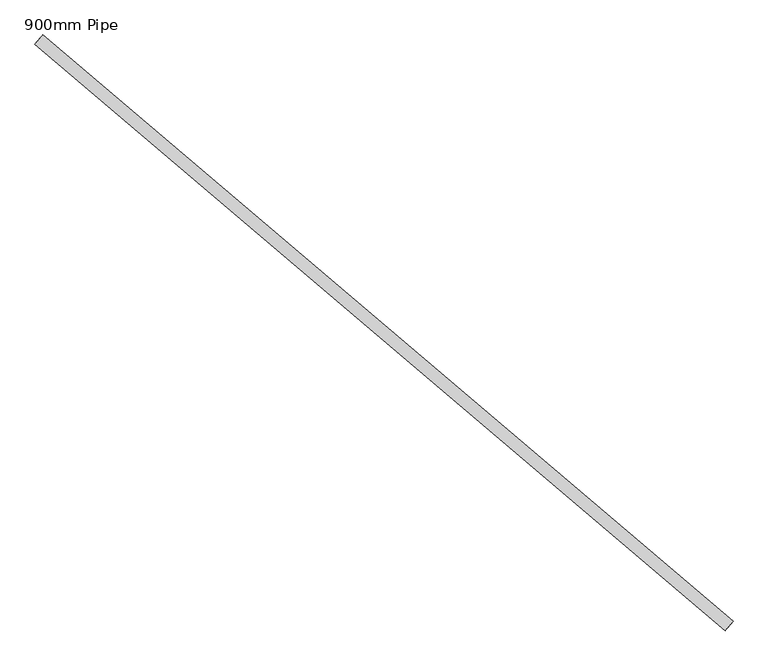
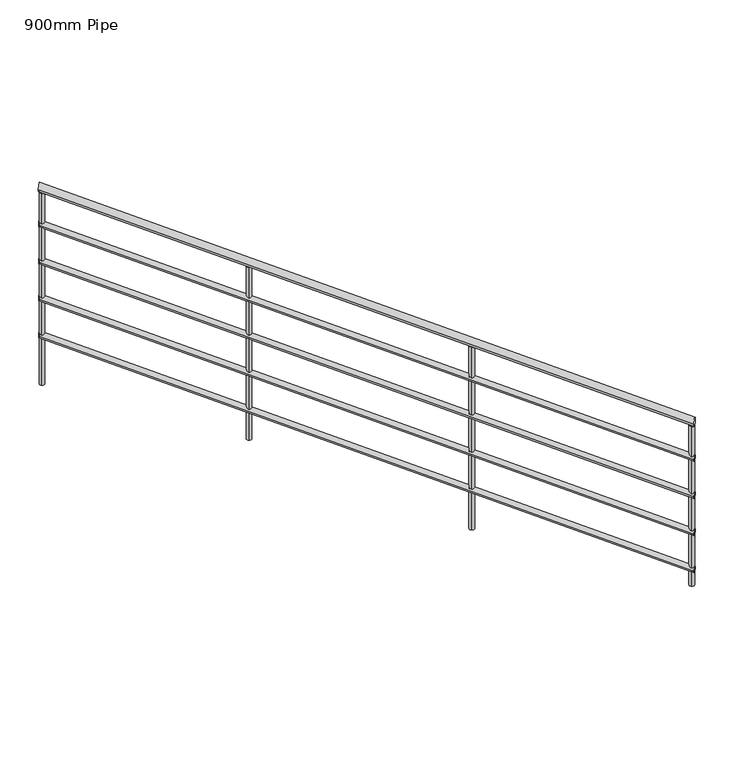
"""IFC4 building model written with IfcOpenShell, lengths in millimetres: railing geometry, 900mm Pipe."""

from ifc_helpers import new_model, si_unit, frame, origin, place, context, project, spatial, circle_curve, ellipse_curve, source, transform, mapped, element, save
from ifc_brep_helpers import plane_surface, cylinder_surface, advanced_brep


def railing_900mm_pipe_257e322f(model_context):
    return source(origin(), model_context, "Body", "AdvancedBrep", [
        advanced_brep(
        [(856945.9510789, 39344.0202675, 4058.386247), (856971.8453201, 39374.5077776, 4058.386247), (854703.5536577, 41248.5765727, 4954.8568352), (854729.4478988, 41279.0640829, 4954.8568352)],
        [
            (0, 1, ellipse_curve(frame((856958.8981995, 39359.2640225, 4058.386247), z_axis=(0.76218775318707, -0.6473560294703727, 0.0), x_axis=(0.0, 0.0, -1.0)), 20.9078706, 20.0)),
            (1, 0, ellipse_curve(frame((856958.8981995, 39359.2640225, 4058.386247), z_axis=(0.76218775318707, -0.6473560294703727, 0.0), x_axis=(0.0, 0.0, -1.0)), 20.9078706, 20.0)),
            (2, 3, ellipse_curve(frame((854716.5007782, 41263.8203278, 4954.8568352), z_axis=(-0.76218775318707, 0.6473560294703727, 0.0), x_axis=(0.0, 0.0, -1.0)), 20.9078706, 20.0)),
            (3, 2, ellipse_curve(frame((854716.5007782, 41263.8203278, 4954.8568352), z_axis=(-0.76218775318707, 0.6473560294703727, 0.0), x_axis=(0.0, 0.0, -1.0)), 20.9078706, 20.0)),
            (0, 2),
            (3, 1),
        ],
        [
            plane_surface(frame((856958.8981995, 39359.2640225, 4079.2941176), z_axis=(0.76218775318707, -0.6473560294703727, 0.0), x_axis=(0.6473560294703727, 0.76218775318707, 0.0))),
            plane_surface(frame((854716.5007782, 41263.8203278, 4975.7647059), z_axis=(-0.76218775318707, 0.6473560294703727, 0.0), x_axis=(0.6473560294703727, 0.76218775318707, 0.0))),
            cylinder_surface(frame((856954.4549819, 39363.0378219, 4060.1625663), z_axis=(0.7290917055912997, -0.6192462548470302, -0.29147789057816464), x_axis=(0.6473560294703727, 0.76218775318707, 0.0)), 20.0),
        ],
        [
            (0, [[1, 2]]),
            (1, [[3, 4]]),
            (2, [[-1, 5, -4, 6]]),
            (2, [[-2, -6, -3, -5]]),
        ],
    ),
        advanced_brep(
        [(856949.1878591, 39347.8312062, 3863.6132147), (856968.6085399, 39370.6968388, 3863.6132147), (854706.7904378, 41252.3875115, 4760.0838029), (854726.2111187, 41275.2531441, 4760.0838029)],
        [
            (0, 1, ellipse_curve(frame((856958.8981995, 39359.2640225, 3863.6132147), z_axis=(0.76218775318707, -0.6473560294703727, 0.0), x_axis=(0.0, 0.0, -1.0)), 15.680903, 15.0)),
            (1, 0, ellipse_curve(frame((856958.8981995, 39359.2640225, 3863.6132147), z_axis=(0.76218775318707, -0.6473560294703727, 0.0), x_axis=(0.0, 0.0, -1.0)), 15.680903, 15.0)),
            (2, 3, ellipse_curve(frame((854716.5007782, 41263.8203278, 4760.0838029), z_axis=(-0.76218775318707, 0.6473560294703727, 0.0), x_axis=(0.0, 0.0, -1.0)), 15.680903, 15.0)),
            (3, 2, ellipse_curve(frame((854716.5007782, 41263.8203278, 4760.0838029), z_axis=(-0.76218775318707, 0.6473560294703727, 0.0), x_axis=(0.0, 0.0, -1.0)), 15.680903, 15.0)),
            (0, 2),
            (3, 1),
        ],
        [
            plane_surface(frame((856958.8981995, 39359.2640225, 3879.2941176), z_axis=(0.76218775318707, -0.6473560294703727, 0.0), x_axis=(0.6473560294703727, 0.76218775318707, 0.0))),
            plane_surface(frame((854716.5007782, 41263.8203278, 4775.7647059), z_axis=(-0.76218775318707, 0.6473560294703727, 0.0), x_axis=(0.6473560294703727, 0.76218775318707, 0.0))),
            cylinder_surface(frame((856955.5657863, 39362.0943721, 3864.9454542), z_axis=(0.7290917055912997, -0.6192462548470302, -0.29147789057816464), x_axis=(0.6473560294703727, 0.76218775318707, 0.0)), 15.0),
        ],
        [
            (0, [[1, 2]]),
            (1, [[3, 4]]),
            (2, [[-1, 5, -4, 6]]),
            (2, [[-2, -6, -3, -5]]),
        ],
    ),
        advanced_brep(
        [(856949.1878591, 39347.8312062, 3663.6132147), (856968.6085399, 39370.6968388, 3663.6132147), (854706.7904378, 41252.3875115, 4560.0838029), (854726.2111187, 41275.2531441, 4560.0838029)],
        [
            (0, 1, ellipse_curve(frame((856958.8981995, 39359.2640225, 3663.6132147), z_axis=(0.76218775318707, -0.6473560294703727, 0.0), x_axis=(0.0, 0.0, -1.0)), 15.680903, 15.0)),
            (1, 0, ellipse_curve(frame((856958.8981995, 39359.2640225, 3663.6132147), z_axis=(0.76218775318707, -0.6473560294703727, 0.0), x_axis=(0.0, 0.0, -1.0)), 15.680903, 15.0)),
            (2, 3, ellipse_curve(frame((854716.5007782, 41263.8203278, 4560.0838029), z_axis=(-0.76218775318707, 0.6473560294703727, 0.0), x_axis=(0.0, 0.0, -1.0)), 15.680903, 15.0)),
            (3, 2, ellipse_curve(frame((854716.5007782, 41263.8203278, 4560.0838029), z_axis=(-0.76218775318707, 0.6473560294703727, 0.0), x_axis=(0.0, 0.0, -1.0)), 15.680903, 15.0)),
            (0, 2),
            (3, 1),
        ],
        [
            plane_surface(frame((856958.8981995, 39359.2640225, 3679.2941176), z_axis=(0.76218775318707, -0.6473560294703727, 0.0), x_axis=(0.6473560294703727, 0.76218775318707, 0.0))),
            plane_surface(frame((854716.5007782, 41263.8203278, 4575.7647059), z_axis=(-0.76218775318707, 0.6473560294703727, 0.0), x_axis=(0.6473560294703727, 0.76218775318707, 0.0))),
            cylinder_surface(frame((856955.5657863, 39362.0943721, 3664.9454542), z_axis=(0.7290917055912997, -0.6192462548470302, -0.29147789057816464), x_axis=(0.6473560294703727, 0.76218775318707, 0.0)), 15.0),
        ],
        [
            (0, [[1, 2]]),
            (1, [[3, 4]]),
            (2, [[-1, 5, -4, 6]]),
            (2, [[-2, -6, -3, -5]]),
        ],
    ),
        advanced_brep(
        [(856949.1878591, 39347.8312062, 3463.6132147), (856968.6085399, 39370.6968388, 3463.6132147), (854706.7904378, 41252.3875115, 4360.0838029), (854726.2111187, 41275.2531441, 4360.0838029)],
        [
            (0, 1, ellipse_curve(frame((856958.8981995, 39359.2640225, 3463.6132147), z_axis=(0.76218775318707, -0.6473560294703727, 0.0), x_axis=(0.0, 0.0, -1.0)), 15.680903, 15.0)),
            (1, 0, ellipse_curve(frame((856958.8981995, 39359.2640225, 3463.6132147), z_axis=(0.76218775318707, -0.6473560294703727, 0.0), x_axis=(0.0, 0.0, -1.0)), 15.680903, 15.0)),
            (2, 3, ellipse_curve(frame((854716.5007782, 41263.8203278, 4360.0838029), z_axis=(-0.76218775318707, 0.6473560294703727, 0.0), x_axis=(0.0, 0.0, -1.0)), 15.680903, 15.0)),
            (3, 2, ellipse_curve(frame((854716.5007782, 41263.8203278, 4360.0838029), z_axis=(-0.76218775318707, 0.6473560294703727, 0.0), x_axis=(0.0, 0.0, -1.0)), 15.680903, 15.0)),
            (0, 2),
            (3, 1),
        ],
        [
            plane_surface(frame((856958.8981995, 39359.2640225, 3479.2941176), z_axis=(0.76218775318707, -0.6473560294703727, 0.0), x_axis=(0.6473560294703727, 0.76218775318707, 0.0))),
            plane_surface(frame((854716.5007782, 41263.8203278, 4375.7647059), z_axis=(-0.76218775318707, 0.6473560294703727, 0.0), x_axis=(0.6473560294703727, 0.76218775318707, 0.0))),
            cylinder_surface(frame((856955.5657863, 39362.0943721, 3464.9454542), z_axis=(0.7290917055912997, -0.6192462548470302, -0.29147789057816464), x_axis=(0.6473560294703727, 0.76218775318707, 0.0)), 15.0),
        ],
        [
            (0, [[1, 2]]),
            (1, [[3, 4]]),
            (2, [[-1, 5, -4, 6]]),
            (2, [[-2, -6, -3, -5]]),
        ],
    ),
        advanced_brep(
        [(856949.1878591, 39347.8312062, 3263.6132147), (856968.6085399, 39370.6968388, 3263.6132147), (854706.7904378, 41252.3875115, 4160.0838029), (854726.2111187, 41275.2531441, 4160.0838029)],
        [
            (0, 1, ellipse_curve(frame((856958.8981995, 39359.2640225, 3263.6132147), z_axis=(0.76218775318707, -0.6473560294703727, 0.0), x_axis=(0.0, 0.0, -1.0)), 15.680903, 15.0)),
            (1, 0, ellipse_curve(frame((856958.8981995, 39359.2640225, 3263.6132147), z_axis=(0.76218775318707, -0.6473560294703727, 0.0), x_axis=(0.0, 0.0, -1.0)), 15.680903, 15.0)),
            (2, 3, ellipse_curve(frame((854716.5007782, 41263.8203278, 4160.0838029), z_axis=(-0.76218775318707, 0.6473560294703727, 0.0), x_axis=(0.0, 0.0, -1.0)), 15.680903, 15.0)),
            (3, 2, ellipse_curve(frame((854716.5007782, 41263.8203278, 4160.0838029), z_axis=(-0.76218775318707, 0.6473560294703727, 0.0), x_axis=(0.0, 0.0, -1.0)), 15.680903, 15.0)),
            (0, 2),
            (3, 1),
        ],
        [
            plane_surface(frame((856958.8981995, 39359.2640225, 3279.2941176), z_axis=(0.76218775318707, -0.6473560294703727, 0.0), x_axis=(0.6473560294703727, 0.76218775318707, 0.0))),
            plane_surface(frame((854716.5007782, 41263.8203278, 4175.7647059), z_axis=(-0.76218775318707, 0.6473560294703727, 0.0), x_axis=(0.6473560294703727, 0.76218775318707, 0.0))),
            cylinder_surface(frame((856955.5657863, 39362.0943721, 3264.9454542), z_axis=(0.7290917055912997, -0.6192462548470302, -0.29147789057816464), x_axis=(0.6473560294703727, 0.76218775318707, 0.0)), 15.0),
        ],
        [
            (0, [[1, 2]]),
            (1, [[3, 4]]),
            (2, [[-1, 5, -4, 6]]),
            (2, [[-2, -6, -3, -5]]),
        ],
    ),
        advanced_brep(
        [(855442.6146435, 40663.5034284, 4646.8965794), (855442.6146435, 40663.5034284, 3717.1764706), (855426.4307428, 40644.4487346, 3717.1764706), (855426.4307428, 40644.4487346, 4646.8965794)],
        [
            (0, 1),
            (1, 2, circle_curve(frame((855434.5226931, 40653.9760815, 3717.1764706), z_axis=(0.0, 0.0, 1.0000000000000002), x_axis=(-0.6473560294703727, -0.7621877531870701, 0.0)), 12.5)),
            (2, 3),
            (3, 0, ellipse_curve(frame((855434.5226931, 40653.9760815, 4646.8965794), z_axis=(-0.22216087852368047, 0.18868996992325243, -0.9565775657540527), x_axis=(-0.729091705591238, 0.6192462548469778, 0.29147789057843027)), 13.0674191, 12.5)),
            (0, 3, ellipse_curve(frame((855434.5226931, 40653.9760815, 4646.8965794), z_axis=(-0.22216087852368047, 0.18868996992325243, -0.9565775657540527), x_axis=(-0.729091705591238, 0.6192462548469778, 0.29147789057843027)), 13.0674191, 12.5)),
            (2, 1, circle_curve(frame((855434.5226931, 40653.9760815, 3717.1764706), z_axis=(0.0, 0.0, 1.0000000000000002), x_axis=(-0.6473560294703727, -0.7621877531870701, 0.0)), 12.5)),
        ],
        [
            cylinder_surface(frame((855434.5226931, 40653.9760815, 3617.1764706), z_axis=(0.0, 0.0, 1.0000000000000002), x_axis=(-0.6473560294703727, -0.7621877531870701, 0.0)), 12.5),
            plane_surface(frame((855399.2840986, 40651.1052884, 4654.5143069), z_axis=(0.22216087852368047, -0.18868996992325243, 0.9565775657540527), x_axis=(0.6473560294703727, 0.7621877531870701, 0.0))),
            plane_surface(frame((855437.3934862, 40618.7374869, 3717.1764706), z_axis=(0.0, 0.0, -1.0000000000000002), x_axis=(0.6473560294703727, 0.7621877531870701, 0.0))),
        ],
        [
            (0, [[1, 2, 3, 4]]),
            (0, [[-1, 5, -3, 6]]),
            (1, [[-4, -5]]),
            (2, [[-2, -6]]),
        ],
    ),
        advanced_brep(
        [(856204.8023967, 40016.1473989, 4342.1874779), (856204.8023967, 40016.1473989, 3358.5882353), (856188.618496, 39997.0927051, 3358.5882353), (856188.618496, 39997.0927051, 4342.1874779)],
        [
            (0, 1),
            (1, 2, circle_curve(frame((856196.7104463, 40006.620052, 3358.5882353), z_axis=(0.0, 0.0, 1.0000000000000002), x_axis=(-0.6473560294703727, -0.7621877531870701, 0.0)), 12.5)),
            (2, 3),
            (3, 0, ellipse_curve(frame((856196.7104463, 40006.620052, 4342.1874779), z_axis=(-0.2221608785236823, 0.188689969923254, -0.956577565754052), x_axis=(-0.7290917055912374, 0.6192462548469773, 0.2914778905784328)), 13.0674191, 12.5)),
            (0, 3, ellipse_curve(frame((856196.7104463, 40006.620052, 4342.1874779), z_axis=(-0.2221608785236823, 0.188689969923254, -0.956577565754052), x_axis=(-0.7290917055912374, 0.6192462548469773, 0.2914778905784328)), 13.0674191, 12.5)),
            (2, 1, circle_curve(frame((856196.7104463, 40006.620052, 3358.5882353), z_axis=(0.0, 0.0, 1.0000000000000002), x_axis=(-0.6473560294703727, -0.7621877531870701, 0.0)), 12.5)),
        ],
        [
            cylinder_surface(frame((856196.7104463, 40006.620052, 3258.5882353), z_axis=(0.0, 0.0, 1.0000000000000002), x_axis=(-0.6473560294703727, -0.7621877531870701, 0.0)), 12.5),
            plane_surface(frame((856161.4718518, 40003.7492589, 4349.8052054), z_axis=(0.2221608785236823, -0.188689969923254, 0.956577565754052), x_axis=(0.6473560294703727, 0.7621877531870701, 0.0))),
            plane_surface(frame((856199.5812394, 39971.3814574, 3358.5882353), z_axis=(0.0, 0.0, -1.0000000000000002), x_axis=(0.6473560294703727, 0.7621877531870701, 0.0))),
        ],
        [
            (0, [[1, 2, 3, 4]]),
            (0, [[-1, 5, -3, 6]]),
            (1, [[-4, -5]]),
            (2, [[-2, -6]]),
        ],
    ),
        advanced_brep(
        [(854734.1200755, 41265.2557243, 4930.1401008), (854734.1200755, 41265.2557243, 3896.4705882), (854717.9361748, 41246.2010305, 3896.4705882), (854717.9361748, 41246.2010305, 4930.1401008)],
        [
            (0, 1),
            (1, 2, circle_curve(frame((854726.0281252, 41255.7283774, 3896.4705882), z_axis=(0.0, 0.0, 1.0000000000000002), x_axis=(-0.6473560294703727, -0.7621877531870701, 0.0)), 12.5)),
            (2, 3),
            (3, 0, ellipse_curve(frame((854726.0281252, 41255.7283774, 4930.1401008), z_axis=(-0.22216087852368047, 0.18868996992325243, -0.9565775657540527), x_axis=(-0.729091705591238, 0.6192462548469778, 0.29147789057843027)), 13.0674191, 12.5)),
            (0, 3, ellipse_curve(frame((854726.0281252, 41255.7283774, 4930.1401008), z_axis=(-0.22216087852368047, 0.18868996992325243, -0.9565775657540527), x_axis=(-0.729091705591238, 0.6192462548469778, 0.29147789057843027)), 13.0674191, 12.5)),
            (2, 1, circle_curve(frame((854726.0281252, 41255.7283774, 3896.4705882), z_axis=(0.0, 0.0, 1.0000000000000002), x_axis=(-0.6473560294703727, -0.7621877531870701, 0.0)), 12.5)),
        ],
        [
            cylinder_surface(frame((854726.0281252, 41255.7283774, 3796.4705882), z_axis=(0.0, 0.0, 1.0000000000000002), x_axis=(-0.6473560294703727, -0.7621877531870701, 0.0)), 12.5),
            plane_surface(frame((854690.7895306, 41252.8575843, 4937.7578284), z_axis=(0.22216087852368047, -0.18868996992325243, 0.9565775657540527), x_axis=(0.6473560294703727, 0.7621877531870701, 0.0))),
            plane_surface(frame((854728.8989183, 41220.4897829, 3896.4705882), z_axis=(0.0, 0.0, -1.0000000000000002), x_axis=(0.6473560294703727, 0.7621877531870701, 0.0))),
        ],
        [
            (0, [[1, 2, 3, 4]]),
            (0, [[-1, 5, -3, 6]]),
            (1, [[-4, -5]]),
            (2, [[-2, -6]]),
        ],
    ),
        advanced_brep(
        [(856957.462803, 39376.8833198, 4041.2872401), (856957.462803, 39376.8833198, 3179.2941176), (856941.2789022, 39357.828626, 3179.2941176), (856941.2789022, 39357.828626, 4041.2872401)],
        [
            (0, 1),
            (1, 2, circle_curve(frame((856949.3708526, 39367.3559729, 3179.2941176), z_axis=(0.0, 0.0, 1.0000000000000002), x_axis=(-0.6473560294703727, -0.7621877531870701, 0.0)), 12.5)),
            (2, 3),
            (3, 0, ellipse_curve(frame((856949.3708526, 39367.3559729, 4041.2872401), z_axis=(-0.2221608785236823, 0.188689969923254, -0.956577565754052), x_axis=(-0.7290917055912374, 0.6192462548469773, 0.2914778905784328)), 13.0674191, 12.5)),
            (0, 3, ellipse_curve(frame((856949.3708526, 39367.3559729, 4041.2872401), z_axis=(-0.2221608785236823, 0.188689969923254, -0.956577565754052), x_axis=(-0.7290917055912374, 0.6192462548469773, 0.2914778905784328)), 13.0674191, 12.5)),
            (2, 1, circle_curve(frame((856949.3708526, 39367.3559729, 3179.2941176), z_axis=(0.0, 0.0, 1.0000000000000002), x_axis=(-0.6473560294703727, -0.7621877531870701, 0.0)), 12.5)),
        ],
        [
            cylinder_surface(frame((856949.3708526, 39367.3559729, 3079.2941176), z_axis=(0.0, 0.0, 1.0000000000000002), x_axis=(-0.6473560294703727, -0.7621877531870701, 0.0)), 12.5),
            plane_surface(frame((856914.132258, 39364.4851798, 4048.9049677), z_axis=(0.2221608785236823, -0.188689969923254, 0.956577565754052), x_axis=(0.6473560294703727, 0.7621877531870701, 0.0))),
            plane_surface(frame((856952.2416457, 39332.1173783, 3179.2941176), z_axis=(0.0, 0.0, -1.0000000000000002), x_axis=(0.6473560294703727, 0.7621877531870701, 0.0))),
        ],
        [
            (0, [[1, 2, 3, 4]]),
            (0, [[-1, 5, -3, 6]]),
            (1, [[-4, -5]]),
            (2, [[-2, -6]]),
        ],
    ),
    ])


if __name__ == "__main__":
    model = new_model("IFC4")
    model_context = context("Model", 3, world=origin())
    ifc_project = project(units=[si_unit("LENGTHUNIT", "METRE", prefix="MILLI")], contexts=[model_context])
    site = spatial("IfcSite", under=ifc_project)
    building = spatial("IfcBuilding", under=site)
    placement = place(None, origin())
    railing_900mm_pipe_shape = railing_900mm_pipe_257e322f(model_context)
    element("IfcRailing", 1, ObjectType="900mm Pipe", at=placement, inside=building, context=model_context, shape_type="MappedRepresentation", body=[
        mapped(railing_900mm_pipe_shape, transform((0.0, 0.0, 0.0), x_axis=(1.0, 0.0, 0.0), y_axis=(0.0, 1.0, 0.0), z_axis=(0.0, 0.0, 1.0))),
    ])
    save(model, "model.ifc")
